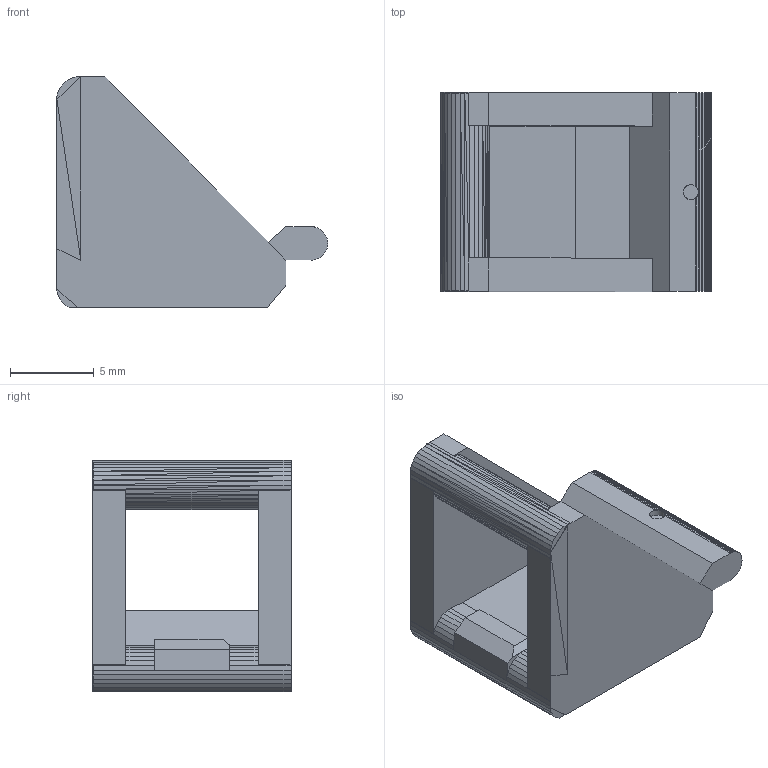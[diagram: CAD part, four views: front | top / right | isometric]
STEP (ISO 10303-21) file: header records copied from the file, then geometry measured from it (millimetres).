
FILE_DESCRIPTION(('Open CASCADE Model'),'2;1');
FILE_NAME('Open CASCADE Shape Model','2026-11-21T21:10:58',('Author'),( 'Open CASCADE'),'Open CASCADE STEP processor 7.8','Open CASCADE 7.8' ,'Unknown');
FILE_SCHEMA(('AUTOMOTIVE_DESIGN { 1 0 10303 214 1 1 1 1 }'));
Length unit declared in the file: millimetre
Products named in the file (1): Open CASCADE STEP translator 7.8 3
Bounding box: 16.25 x 11.91 x 13.84 mm (x, y, z)
Volume: 931.8 mm3; surface area: 1030.8 mm2
Topology: 1 solids, 1 shells, 162 faces, 465 edges, 303 vertices
Faces by surface type: plane 161, cylinder 1
Full cylindrical faces by diameter (mm): 0.9 x1
Entity records: 11086 total; most frequent: CARTESIAN_POINT 2047, DIRECTION 1565, LINE 1215, VECTOR 1215, ORIENTED_EDGE 930, PCURVE 930, DEFINITIONAL_REPRESENTATION 930, EDGE_CURVE 465
